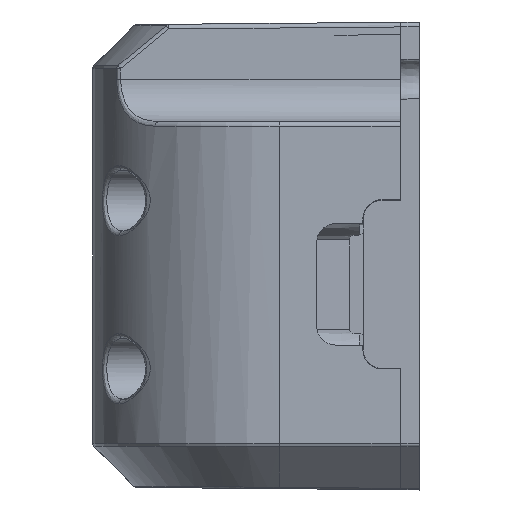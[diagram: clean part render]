
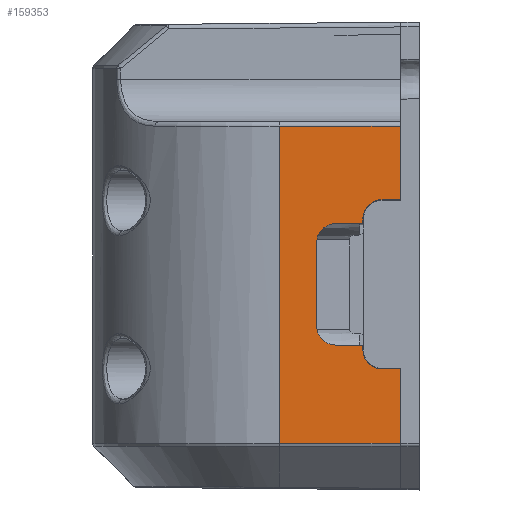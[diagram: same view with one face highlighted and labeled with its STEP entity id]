
A CAD part, left-side view. The second image highlights one B-rep face of the part: STEP entity #159353.
In plain terms, the highlighted planar face has unit normal (-1, 0, 0) as drawn and (1, 0, 0) by its records, which use the part's own axes.
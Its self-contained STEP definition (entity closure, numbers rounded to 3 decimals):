
#155101=DIRECTION('',(0.,0.,1.));
#155102=VECTOR('',#155101,33.943);
#155103=CARTESIAN_POINT('',(40.97,15.,-13.9));
#155104=LINE('',#155103,#155102);
#156500=DIRECTION('',(0.,1.,0.));
#156501=VECTOR('',#156500,12.94);
#156502=CARTESIAN_POINT('',(40.97,2.06,-13.9));
#156503=LINE('',#156502,#156501);
#156504=DIRECTION('',(0.,0.,1.));
#156505=VECTOR('',#156504,7.872);
#156506=CARTESIAN_POINT('',(40.97,2.06,-13.9));
#156507=LINE('',#156506,#156505);
#156508=DIRECTION('',(0.,1.,0.));
#156509=VECTOR('',#156508,1.94);
#156510=CARTESIAN_POINT('',(40.97,2.06,-6.028));
#156511=LINE('',#156510,#156509);
#156512=CARTESIAN_POINT('',(40.97,4.,-3.968));
#156513=DIRECTION('',(1.,0.,0.));
#156514=DIRECTION('',(0.,0.,-1.));
#156515=AXIS2_PLACEMENT_3D('',#156512,#156513,#156514);
#156517=DIRECTION('',(0.,0.,1.));
#156518=VECTOR('',#156517,0.5);
#156519=CARTESIAN_POINT('',(40.97,6.06,-3.968));
#156520=LINE('',#156519,#156518);
#156521=DIRECTION('',(0.,1.,0.));
#156522=VECTOR('',#156521,2.938);
#156523=CARTESIAN_POINT('',(40.97,6.06,-3.468));
#156524=LINE('',#156523,#156522);
#156525=CARTESIAN_POINT('',(40.97,8.998,-1.468));
#156526=DIRECTION('',(1.,0.,0.));
#156527=DIRECTION('',(0.,0.,-1.));
#156528=AXIS2_PLACEMENT_3D('',#156525,#156526,#156527);
#156530=DIRECTION('',(0.,0.,1.));
#156531=VECTOR('',#156530,9.);
#156532=CARTESIAN_POINT('',(40.97,10.998,-1.468));
#156533=LINE('',#156532,#156531);
#156534=CARTESIAN_POINT('',(40.97,8.998,7.532));
#156535=DIRECTION('',(1.,0.,0.));
#156536=DIRECTION('',(0.,1.,0.));
#156537=AXIS2_PLACEMENT_3D('',#156534,#156535,#156536);
#156539=DIRECTION('',(0.,-1.,0.));
#156540=VECTOR('',#156539,2.938);
#156541=CARTESIAN_POINT('',(40.97,8.998,9.532));
#156542=LINE('',#156541,#156540);
#156543=DIRECTION('',(0.,0.,1.));
#156544=VECTOR('',#156543,0.5);
#156545=CARTESIAN_POINT('',(40.97,6.06,9.532));
#156546=LINE('',#156545,#156544);
#156547=CARTESIAN_POINT('',(40.97,4.,10.032));
#156548=DIRECTION('',(1.,0.,0.));
#156549=DIRECTION('',(0.,1.,0.));
#156550=AXIS2_PLACEMENT_3D('',#156547,#156548,#156549);
#156552=DIRECTION('',(0.,1.,0.));
#156553=VECTOR('',#156552,1.94);
#156554=CARTESIAN_POINT('',(40.97,2.06,12.092));
#156555=LINE('',#156554,#156553);
#156556=DIRECTION('',(0.,0.,1.));
#156557=VECTOR('',#156556,7.951);
#156558=CARTESIAN_POINT('',(40.97,2.06,12.092));
#156559=LINE('',#156558,#156557);
#156560=DIRECTION('',(0.,-1.,0.));
#156561=VECTOR('',#156560,12.94);
#156562=CARTESIAN_POINT('',(40.97,15.,20.043));
#156563=LINE('',#156562,#156561);
#156808=CARTESIAN_POINT('',(40.97,2.06,12.092));
#156810=VERTEX_POINT('',#156808);
#156812=CARTESIAN_POINT('',(40.97,2.06,-6.028));
#156814=VERTEX_POINT('',#156812);
#156816=CARTESIAN_POINT('',(40.97,4.,12.092));
#156817=VERTEX_POINT('',#156816);
#156818=CARTESIAN_POINT('',(40.97,4.,-6.028));
#156819=VERTEX_POINT('',#156818);
#156820=CARTESIAN_POINT('',(40.97,6.06,-3.968));
#156821=VERTEX_POINT('',#156820);
#156822=CARTESIAN_POINT('',(40.97,6.06,10.032));
#156823=VERTEX_POINT('',#156822);
#156850=CARTESIAN_POINT('',(40.97,10.998,7.532));
#156851=CARTESIAN_POINT('',(40.97,8.998,9.532));
#156852=VERTEX_POINT('',#156850);
#156853=VERTEX_POINT('',#156851);
#156854=CARTESIAN_POINT('',(40.97,6.06,9.532));
#156855=VERTEX_POINT('',#156854);
#156856=CARTESIAN_POINT('',(40.97,6.06,-3.468));
#156857=CARTESIAN_POINT('',(40.97,8.998,-3.468));
#156858=VERTEX_POINT('',#156856);
#156859=VERTEX_POINT('',#156857);
#156860=CARTESIAN_POINT('',(40.97,10.998,-1.468));
#156861=VERTEX_POINT('',#156860);
#156876=CARTESIAN_POINT('',(40.97,2.06,20.043));
#156878=VERTEX_POINT('',#156876);
#156882=CARTESIAN_POINT('',(40.97,15.,20.043));
#156883=VERTEX_POINT('',#156882);
#156905=CARTESIAN_POINT('',(40.97,2.06,-13.9));
#156907=VERTEX_POINT('',#156905);
#156908=CARTESIAN_POINT('',(40.97,15.,-13.9));
#156909=VERTEX_POINT('',#156908);
#159318=CARTESIAN_POINT('',(40.97,2.06,-25.));
#159319=DIRECTION('',(1.,0.,0.));
#159320=DIRECTION('',(0.,1.,0.));
#159321=AXIS2_PLACEMENT_3D('',#159318,#159319,#159320);
#159322=PLANE('',#159321);
#159324=ORIENTED_EDGE('',*,*,#159323,.F.);
#159325=ORIENTED_EDGE('',*,*,#157232,.T.);
#159327=ORIENTED_EDGE('',*,*,#159326,.T.);
#159329=ORIENTED_EDGE('',*,*,#159328,.T.);
#159331=ORIENTED_EDGE('',*,*,#159330,.T.);
#159333=ORIENTED_EDGE('',*,*,#159332,.T.);
#159335=ORIENTED_EDGE('',*,*,#159334,.T.);
#159337=ORIENTED_EDGE('',*,*,#159336,.T.);
#159339=ORIENTED_EDGE('',*,*,#159338,.T.);
#159341=ORIENTED_EDGE('',*,*,#159340,.T.);
#159343=ORIENTED_EDGE('',*,*,#159342,.T.);
#159345=ORIENTED_EDGE('',*,*,#159344,.T.);
#159346=ORIENTED_EDGE('',*,*,#159310,.F.);
#159347=ORIENTED_EDGE('',*,*,#157184,.T.);
#159349=ORIENTED_EDGE('',*,*,#159348,.F.);
#159350=ORIENTED_EDGE('',*,*,#157303,.F.);
#159351=EDGE_LOOP('',(#159324,#159325,#159327,#159329,#159331,#159333,#159335,
#159337,#159339,#159341,#159343,#159345,#159346,#159347,#159349,#159350));
#159352=FACE_OUTER_BOUND('',#159351,.F.);
#159353=ADVANCED_FACE('',(#159352),#159322,.T.);
#156516=CIRCLE('',#156515,2.06);
#156529=CIRCLE('',#156528,2.);
#156538=CIRCLE('',#156537,2.);
#156551=CIRCLE('',#156550,2.06);
#157184=EDGE_CURVE('',#156810,#156878,#156559,.T.);
#157232=EDGE_CURVE('',#156907,#156814,#156507,.T.);
#157303=EDGE_CURVE('',#156909,#156883,#155104,.T.);
#159310=EDGE_CURVE('',#156810,#156817,#156555,.T.);
#159323=EDGE_CURVE('',#156907,#156909,#156503,.T.);
#159326=EDGE_CURVE('',#156814,#156819,#156511,.T.);
#159328=EDGE_CURVE('',#156819,#156821,#156516,.T.);
#159330=EDGE_CURVE('',#156821,#156858,#156520,.T.);
#159332=EDGE_CURVE('',#156858,#156859,#156524,.T.);
#159334=EDGE_CURVE('',#156859,#156861,#156529,.T.);
#159336=EDGE_CURVE('',#156861,#156852,#156533,.T.);
#159338=EDGE_CURVE('',#156852,#156853,#156538,.T.);
#159340=EDGE_CURVE('',#156853,#156855,#156542,.T.);
#159342=EDGE_CURVE('',#156855,#156823,#156546,.T.);
#159344=EDGE_CURVE('',#156823,#156817,#156551,.T.);
#159348=EDGE_CURVE('',#156883,#156878,#156563,.T.);
